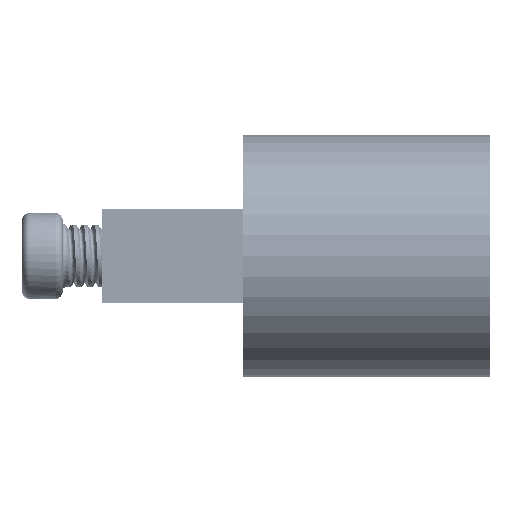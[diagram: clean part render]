
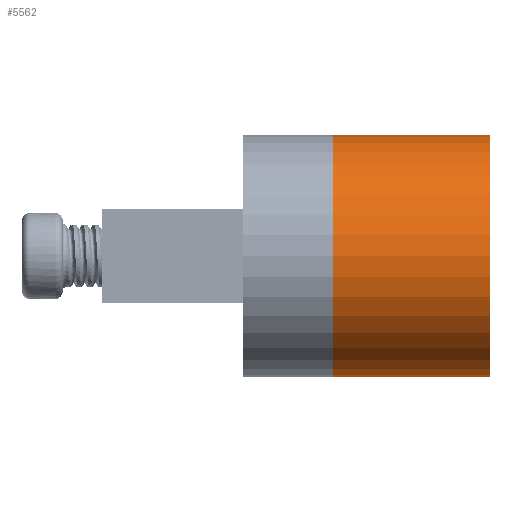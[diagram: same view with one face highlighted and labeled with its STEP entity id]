
A CAD part, left-side view. The second image highlights one B-rep face of the part: STEP entity #5562.
In plain terms, the highlighted cylindrical face has radius 7.7 mm (diameter 15.4 mm), a partial arc.
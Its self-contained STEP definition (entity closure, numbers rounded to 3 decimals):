
#425 = CARTESIAN_POINT ( 'NONE',  ( 14., 7.7, 10. ) ) ;
#633 = CYLINDRICAL_SURFACE ( 'NONE', #4189, 7.7 ) ;
#921 = DIRECTION ( 'NONE',  ( 0., 0., 1. ) ) ;
#937 = EDGE_LOOP ( 'NONE', ( #7223, #4059, #5171, #5819 ) ) ;
#953 = FACE_OUTER_BOUND ( 'NONE', #937, .T. ) ;
#1377 = EDGE_CURVE ( 'NONE', #2288, #1922, #9726, .T. ) ;
#1491 = CARTESIAN_POINT ( 'NONE',  ( 14., 7.7, 10. ) ) ;
#1922 = VERTEX_POINT ( 'NONE', #1491 ) ;
#2288 = VERTEX_POINT ( 'NONE', #9910 ) ;
#2501 = EDGE_CURVE ( 'NONE', #1922, #8381, #3033, .T. ) ;
#3033 = LINE ( 'NONE', #425, #3326 ) ;
#3217 = CARTESIAN_POINT ( 'NONE',  ( 14., -7.7, 10. ) ) ;
#3325 = DIRECTION ( 'NONE',  ( 0., 0., -1. ) ) ;
#3326 = VECTOR ( 'NONE', #3325, 1000. ) ;
#3644 = EDGE_CURVE ( 'NONE', #8660, #8381, #5669, .T. ) ;
#4059 = ORIENTED_EDGE ( 'NONE', *, *, #2501, .F. ) ;
#4189 = AXIS2_PLACEMENT_3D ( 'NONE', #7583, #4675, #5644 ) ;
#4660 = LINE ( 'NONE', #3217, #9806 ) ;
#4675 = DIRECTION ( 'NONE',  ( 0., 0., -1. ) ) ;
#4849 = AXIS2_PLACEMENT_3D ( 'NONE', #10997, #5175, #11960 ) ;
#5084 = DIRECTION ( 'NONE',  ( 0., 0., -1. ) ) ;
#5171 = ORIENTED_EDGE ( 'NONE', *, *, #1377, .F. ) ;
#5175 = DIRECTION ( 'NONE',  ( 0., 0., 1. ) ) ;
#5282 = AXIS2_PLACEMENT_3D ( 'NONE', #6722, #921, #7698 ) ;
#5562 = ADVANCED_FACE ( 'NONE', ( #953 ), #633, .T. ) ;
#5644 = DIRECTION ( 'NONE',  ( -1., 0., 0. ) ) ;
#5669 = CIRCLE ( 'NONE', #4849, 7.7 ) ;
#5819 = ORIENTED_EDGE ( 'NONE', *, *, #11030, .T. ) ;
#6629 = CARTESIAN_POINT ( 'NONE',  ( 14., 7.7, 0. ) ) ;
#6722 = CARTESIAN_POINT ( 'NONE',  ( 14., 0., 10. ) ) ;
#7223 = ORIENTED_EDGE ( 'NONE', *, *, #3644, .T. ) ;
#7583 = CARTESIAN_POINT ( 'NONE',  ( 14., 0., 10. ) ) ;
#7698 = DIRECTION ( 'NONE',  ( 1., 0., 0. ) ) ;
#7881 = CARTESIAN_POINT ( 'NONE',  ( 14., -7.7, 0. ) ) ;
#8381 = VERTEX_POINT ( 'NONE', #6629 ) ;
#8660 = VERTEX_POINT ( 'NONE', #7881 ) ;
#9726 = CIRCLE ( 'NONE', #5282, 7.7 ) ;
#9806 = VECTOR ( 'NONE', #5084, 1000. ) ;
#9910 = CARTESIAN_POINT ( 'NONE',  ( 14., -7.7, 10. ) ) ;
#10997 = CARTESIAN_POINT ( 'NONE',  ( 14., 0., 0. ) ) ;
#11030 = EDGE_CURVE ( 'NONE', #2288, #8660, #4660, .T. ) ;
#11960 = DIRECTION ( 'NONE',  ( 1., 0., 0. ) ) ;
